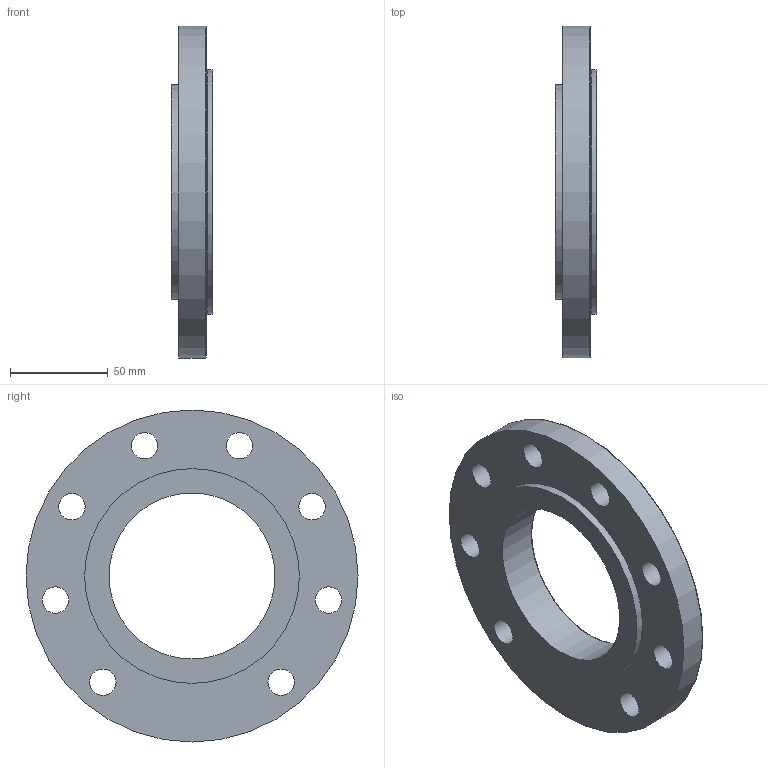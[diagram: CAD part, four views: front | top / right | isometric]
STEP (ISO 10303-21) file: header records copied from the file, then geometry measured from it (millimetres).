
FILE_DESCRIPTION((''),'2;1');
FILE_NAME('D:\PAWEŁ\ZLECENIA\2011 DualSystem\001 Modele\DKAB70_\DK_70-_STEP\AZ_70.stp','2012-05-14T22:07:29',('admin'),(''),'Autodesk Inventor 2009','Autodesk Inventor 2009','');
FILE_SCHEMA(('AUTOMOTIVE_DESIGN { 1 0 10303 214 1 1 1 1 }'));
Length unit declared in the file: millimetre
Products named in the file (1): AZ_70
Bounding box: 21.5 x 170 x 170 mm (x, y, z)
Volume: 260649.5 mm3; surface area: 52140.2 mm2
Topology: 1 solids, 1 shells, 20 faces, 52 edges, 36 vertices
Faces by surface type: bspline 9, cylinder 4, plane 4, torus 3
Full cylindrical faces by diameter (mm): 85 x1, 110 x1, 125 x1, 170 x1
Entity records: 690 total; most frequent: CARTESIAN_POINT 257, DIRECTION 80, ORIENTED_EDGE 56, EDGE_LOOP 56, AXIS2_PLACEMENT_3D 40, FACE_BOUND 36, VERTEX_POINT 28, CIRCLE 28
